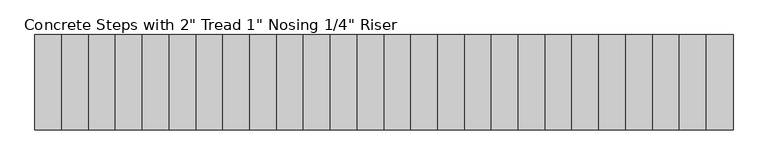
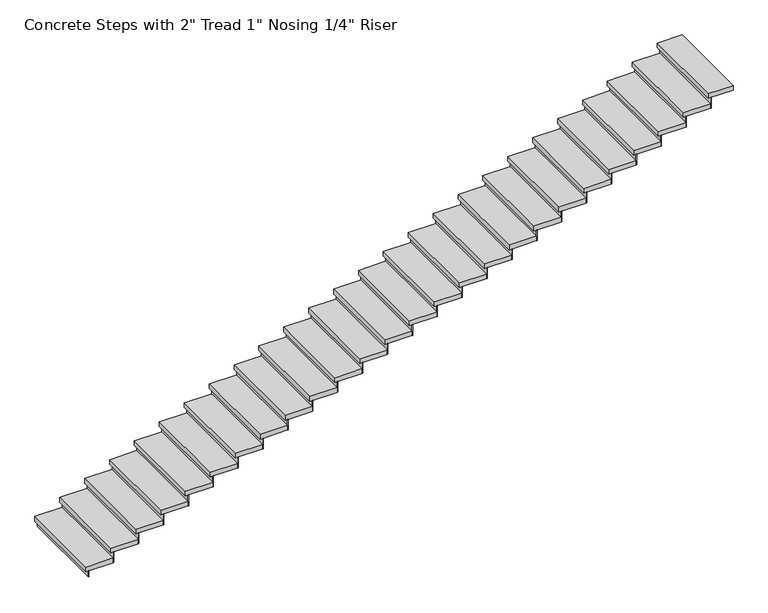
"""IFC4 building model written with IfcOpenShell, lengths in millimetres: stair flight geometry."""

from ifc_helpers import new_model, si_unit, frame, origin, origin_with_axes, place, context, project, spatial, polyline, outline, extrude, source, transform, mapped, element, save


def stair_flight_e29d72e6(model_context):
    return source(origin(), model_context, "Body", "SweptSolid", [
        extrude(outline(polyline([(-13769.987319, 12968.7406645), (-13776.337319, 12968.7406645), (-13776.337319, 13883.1406645), (-13769.987319, 13883.1406645), (-13769.987319, 12968.7406645)])), origin_with_axes(), (0.0, 0.0, 1.0), 66.4307692),
        extrude(outline(polyline([(-13518.527319, 13883.1406645), (-13518.527319, 12968.7406645), (-13801.737319, 12968.7406645), (-13801.737319, 13883.1406645), (-13518.527319, 13883.1406645)])), frame((0.0, 0.0, 66.4307692), z_axis=(0.0, 0.0, 1.0), x_axis=(1.0, 0.0, 0.0)), (0.0, 0.0, 1.0), 50.8),
        extrude(outline(polyline([(-13512.177319, 12968.7406645), (-13518.527319, 12968.7406645), (-13518.527319, 13883.1406645), (-13512.177319, 13883.1406645), (-13512.177319, 12968.7406645)])), frame((0.0, 0.0, 66.4307692), z_axis=(0.0, 0.0, 1.0), x_axis=(1.0, 0.0, 0.0)), (0.0, 0.0, 1.0), 117.2307692),
        extrude(outline(polyline([(-13260.717319, 13883.1406645), (-13260.717319, 12968.7406645), (-13543.927319, 12968.7406645), (-13543.927319, 13883.1406645), (-13260.717319, 13883.1406645)])), frame((0.0, 0.0, 183.6615385), z_axis=(0.0, 0.0, 1.0), x_axis=(1.0, 0.0, 0.0)), (0.0, 0.0, 1.0), 50.8),
        extrude(outline(polyline([(-13254.367319, 12968.7406645), (-13260.717319, 12968.7406645), (-13260.717319, 13883.1406645), (-13254.367319, 13883.1406645), (-13254.367319, 12968.7406645)])), frame((0.0, 0.0, 183.6615385), z_axis=(0.0, 0.0, 1.0), x_axis=(1.0, 0.0, 0.0)), (0.0, 0.0, 1.0), 117.2307692),
        extrude(outline(polyline([(-13002.907319, 13883.1406645), (-13002.907319, 12968.7406645), (-13286.117319, 12968.7406645), (-13286.117319, 13883.1406645), (-13002.907319, 13883.1406645)])), frame((0.0, 0.0, 300.8923077), z_axis=(0.0, 0.0, 1.0), x_axis=(1.0, 0.0, 0.0)), (0.0, 0.0, 1.0), 50.8),
        extrude(outline(polyline([(-12996.557319, 12968.7406645), (-13002.907319, 12968.7406645), (-13002.907319, 13883.1406645), (-12996.557319, 13883.1406645), (-12996.557319, 12968.7406645)])), frame((0.0, 0.0, 300.8923077), z_axis=(0.0, 0.0, 1.0), x_axis=(1.0, 0.0, 0.0)), (0.0, 0.0, 1.0), 117.2307692),
        extrude(outline(polyline([(-12745.097319, 13883.1406645), (-12745.097319, 12968.7406645), (-13028.307319, 12968.7406645), (-13028.307319, 13883.1406645), (-12745.097319, 13883.1406645)])), frame((0.0, 0.0, 418.1230769), z_axis=(0.0, 0.0, 1.0), x_axis=(1.0, 0.0, 0.0)), (0.0, 0.0, 1.0), 50.8),
        extrude(outline(polyline([(-12738.747319, 12968.7406645), (-12745.097319, 12968.7406645), (-12745.097319, 13883.1406645), (-12738.747319, 13883.1406645), (-12738.747319, 12968.7406645)])), frame((0.0, 0.0, 418.1230769), z_axis=(0.0, 0.0, 1.0), x_axis=(1.0, 0.0, 0.0)), (0.0, 0.0, 1.0), 117.2307692),
        extrude(outline(polyline([(-12487.287319, 13883.1406645), (-12487.287319, 12968.7406645), (-12770.497319, 12968.7406645), (-12770.497319, 13883.1406645), (-12487.287319, 13883.1406645)])), frame((0.0, 0.0, 535.3538462), z_axis=(0.0, 0.0, 1.0), x_axis=(1.0, 0.0, 0.0)), (0.0, 0.0, 1.0), 50.8),
        extrude(outline(polyline([(-12480.937319, 12968.7406645), (-12487.287319, 12968.7406645), (-12487.287319, 13883.1406645), (-12480.937319, 13883.1406645), (-12480.937319, 12968.7406645)])), frame((0.0, 0.0, 535.3538462), z_axis=(0.0, 0.0, 1.0), x_axis=(1.0, 0.0, 0.0)), (0.0, 0.0, 1.0), 117.2307692),
        extrude(outline(polyline([(-12229.477319, 13883.1406645), (-12229.477319, 12968.7406645), (-12512.687319, 12968.7406645), (-12512.687319, 13883.1406645), (-12229.477319, 13883.1406645)])), frame((0.0, 0.0, 652.5846154), z_axis=(0.0, 0.0, 1.0), x_axis=(1.0, 0.0, 0.0)), (0.0, 0.0, 1.0), 50.8),
        extrude(outline(polyline([(-12223.127319, 12968.7406645), (-12229.477319, 12968.7406645), (-12229.477319, 13883.1406645), (-12223.127319, 13883.1406645), (-12223.127319, 12968.7406645)])), frame((0.0, 0.0, 652.5846154), z_axis=(0.0, 0.0, 1.0), x_axis=(1.0, 0.0, 0.0)), (0.0, 0.0, 1.0), 117.2307692),
        extrude(outline(polyline([(-11971.667319, 13883.1406645), (-11971.667319, 12968.7406645), (-12254.877319, 12968.7406645), (-12254.877319, 13883.1406645), (-11971.667319, 13883.1406645)])), frame((0.0, 0.0, 769.8153846), z_axis=(0.0, 0.0, 1.0), x_axis=(1.0, 0.0, 0.0)), (0.0, 0.0, 1.0), 50.8),
        extrude(outline(polyline([(-11965.317319, 12968.7406645), (-11971.667319, 12968.7406645), (-11971.667319, 13883.1406645), (-11965.317319, 13883.1406645), (-11965.317319, 12968.7406645)])), frame((0.0, 0.0, 769.8153846), z_axis=(0.0, 0.0, 1.0), x_axis=(1.0, 0.0, 0.0)), (0.0, 0.0, 1.0), 117.2307692),
        extrude(outline(polyline([(-11713.857319, 13883.1406645), (-11713.857319, 12968.7406645), (-11997.067319, 12968.7406645), (-11997.067319, 13883.1406645), (-11713.857319, 13883.1406645)])), frame((0.0, 0.0, 887.0461538), z_axis=(0.0, 0.0, 1.0), x_axis=(1.0, 0.0, 0.0)), (0.0, 0.0, 1.0), 50.8),
        extrude(outline(polyline([(-11707.507319, 12968.7406645), (-11713.857319, 12968.7406645), (-11713.857319, 13883.1406645), (-11707.507319, 13883.1406645), (-11707.507319, 12968.7406645)])), frame((0.0, 0.0, 887.0461538), z_axis=(0.0, 0.0, 1.0), x_axis=(1.0, 0.0, 0.0)), (0.0, 0.0, 1.0), 117.2307692),
        extrude(outline(polyline([(-11456.047319, 13883.1406645), (-11456.047319, 12968.7406645), (-11739.257319, 12968.7406645), (-11739.257319, 13883.1406645), (-11456.047319, 13883.1406645)])), frame((0.0, 0.0, 1004.2769231), z_axis=(0.0, 0.0, 1.0), x_axis=(1.0, 0.0, 0.0)), (0.0, 0.0, 1.0), 50.8),
        extrude(outline(polyline([(-11449.697319, 12968.7406645), (-11456.047319, 12968.7406645), (-11456.047319, 13883.1406645), (-11449.697319, 13883.1406645), (-11449.697319, 12968.7406645)])), frame((0.0, 0.0, 1004.2769231), z_axis=(0.0, 0.0, 1.0), x_axis=(1.0, 0.0, 0.0)), (0.0, 0.0, 1.0), 117.2307692),
        extrude(outline(polyline([(-11198.237319, 13883.1406645), (-11198.237319, 12968.7406645), (-11481.447319, 12968.7406645), (-11481.447319, 13883.1406645), (-11198.237319, 13883.1406645)])), frame((0.0, 0.0, 1121.5076923), z_axis=(0.0, 0.0, 1.0), x_axis=(1.0, 0.0, 0.0)), (0.0, 0.0, 1.0), 50.8),
        extrude(outline(polyline([(-11191.887319, 12968.7406645), (-11198.237319, 12968.7406645), (-11198.237319, 13883.1406645), (-11191.887319, 13883.1406645), (-11191.887319, 12968.7406645)])), frame((0.0, 0.0, 1121.5076923), z_axis=(0.0, 0.0, 1.0), x_axis=(1.0, 0.0, 0.0)), (0.0, 0.0, 1.0), 117.2307692),
        extrude(outline(polyline([(-10940.427319, 13883.1406645), (-10940.427319, 12968.7406645), (-11223.637319, 12968.7406645), (-11223.637319, 13883.1406645), (-10940.427319, 13883.1406645)])), frame((0.0, 0.0, 1238.7384615), z_axis=(0.0, 0.0, 1.0), x_axis=(1.0, 0.0, 0.0)), (0.0, 0.0, 1.0), 50.8),
        extrude(outline(polyline([(-10934.077319, 12968.7406645), (-10940.427319, 12968.7406645), (-10940.427319, 13883.1406645), (-10934.077319, 13883.1406645), (-10934.077319, 12968.7406645)])), frame((0.0, 0.0, 1238.7384615), z_axis=(0.0, 0.0, 1.0), x_axis=(1.0, 0.0, 0.0)), (0.0, 0.0, 1.0), 117.2307692),
        extrude(outline(polyline([(-10682.617319, 13883.1406645), (-10682.617319, 12968.7406645), (-10965.827319, 12968.7406645), (-10965.827319, 13883.1406645), (-10682.617319, 13883.1406645)])), frame((0.0, 0.0, 1355.9692308), z_axis=(0.0, 0.0, 1.0), x_axis=(1.0, 0.0, 0.0)), (0.0, 0.0, 1.0), 50.8),
        extrude(outline(polyline([(-10676.267319, 12968.7406645), (-10682.617319, 12968.7406645), (-10682.617319, 13883.1406645), (-10676.267319, 13883.1406645), (-10676.267319, 12968.7406645)])), frame((0.0, 0.0, 1355.9692308), z_axis=(0.0, 0.0, 1.0), x_axis=(1.0, 0.0, 0.0)), (0.0, 0.0, 1.0), 117.2307692),
        extrude(outline(polyline([(-10424.807319, 13883.1406645), (-10424.807319, 12968.7406645), (-10708.017319, 12968.7406645), (-10708.017319, 13883.1406645), (-10424.807319, 13883.1406645)])), frame((0.0, 0.0, 1473.2), z_axis=(0.0, 0.0, 1.0), x_axis=(1.0, 0.0, 0.0)), (0.0, 0.0, 1.0), 50.8),
        extrude(outline(polyline([(-10418.457319, 12968.7406645), (-10424.807319, 12968.7406645), (-10424.807319, 13883.1406645), (-10418.457319, 13883.1406645), (-10418.457319, 12968.7406645)])), frame((0.0, 0.0, 1473.2), z_axis=(0.0, 0.0, 1.0), x_axis=(1.0, 0.0, 0.0)), (0.0, 0.0, 1.0), 117.2307692),
        extrude(outline(polyline([(-10166.997319, 13883.1406645), (-10166.997319, 12968.7406645), (-10450.207319, 12968.7406645), (-10450.207319, 13883.1406645), (-10166.997319, 13883.1406645)])), frame((0.0, 0.0, 1590.4307692), z_axis=(0.0, 0.0, 1.0), x_axis=(1.0, 0.0, 0.0)), (0.0, 0.0, 1.0), 50.8),
        extrude(outline(polyline([(-10160.647319, 12968.7406645), (-10166.997319, 12968.7406645), (-10166.997319, 13883.1406645), (-10160.647319, 13883.1406645), (-10160.647319, 12968.7406645)])), frame((0.0, 0.0, 1590.4307692), z_axis=(0.0, 0.0, 1.0), x_axis=(1.0, 0.0, 0.0)), (0.0, 0.0, 1.0), 117.2307692),
        extrude(outline(polyline([(-9909.187319, 13883.1406645), (-9909.187319, 12968.7406645), (-10192.397319, 12968.7406645), (-10192.397319, 13883.1406645), (-9909.187319, 13883.1406645)])), frame((0.0, 0.0, 1707.6615385), z_axis=(0.0, 0.0, 1.0), x_axis=(1.0, 0.0, 0.0)), (0.0, 0.0, 1.0), 50.8),
        extrude(outline(polyline([(-9902.837319, 12968.7406645), (-9909.187319, 12968.7406645), (-9909.187319, 13883.1406645), (-9902.837319, 13883.1406645), (-9902.837319, 12968.7406645)])), frame((0.0, 0.0, 1707.6615385), z_axis=(0.0, 0.0, 1.0), x_axis=(1.0, 0.0, 0.0)), (0.0, 0.0, 1.0), 117.2307692),
        extrude(outline(polyline([(-9651.377319, 13883.1406645), (-9651.377319, 12968.7406645), (-9934.587319, 12968.7406645), (-9934.587319, 13883.1406645), (-9651.377319, 13883.1406645)])), frame((0.0, 0.0, 1824.8923077), z_axis=(0.0, 0.0, 1.0), x_axis=(1.0, 0.0, 0.0)), (0.0, 0.0, 1.0), 50.8),
        extrude(outline(polyline([(-9645.027319, 12968.7406645), (-9651.377319, 12968.7406645), (-9651.377319, 13883.1406645), (-9645.027319, 13883.1406645), (-9645.027319, 12968.7406645)])), frame((0.0, 0.0, 1824.8923077), z_axis=(0.0, 0.0, 1.0), x_axis=(1.0, 0.0, 0.0)), (0.0, 0.0, 1.0), 117.2307692),
        extrude(outline(polyline([(-9393.567319, 13883.1406645), (-9393.567319, 12968.7406645), (-9676.777319, 12968.7406645), (-9676.777319, 13883.1406645), (-9393.567319, 13883.1406645)])), frame((0.0, 0.0, 1942.1230769), z_axis=(0.0, 0.0, 1.0), x_axis=(1.0, 0.0, 0.0)), (0.0, 0.0, 1.0), 50.8),
        extrude(outline(polyline([(-9387.217319, 12968.7406645), (-9393.567319, 12968.7406645), (-9393.567319, 13883.1406645), (-9387.217319, 13883.1406645), (-9387.217319, 12968.7406645)])), frame((0.0, 0.0, 1942.1230769), z_axis=(0.0, 0.0, 1.0), x_axis=(1.0, 0.0, 0.0)), (0.0, 0.0, 1.0), 117.2307692),
        extrude(outline(polyline([(-9135.757319, 13883.1406645), (-9135.757319, 12968.7406645), (-9418.967319, 12968.7406645), (-9418.967319, 13883.1406645), (-9135.757319, 13883.1406645)])), frame((0.0, 0.0, 2059.3538462), z_axis=(0.0, 0.0, 1.0), x_axis=(1.0, 0.0, 0.0)), (0.0, 0.0, 1.0), 50.8),
        extrude(outline(polyline([(-9129.407319, 12968.7406645), (-9135.757319, 12968.7406645), (-9135.757319, 13883.1406645), (-9129.407319, 13883.1406645), (-9129.407319, 12968.7406645)])), frame((0.0, 0.0, 2059.3538462), z_axis=(0.0, 0.0, 1.0), x_axis=(1.0, 0.0, 0.0)), (0.0, 0.0, 1.0), 117.2307692),
        extrude(outline(polyline([(-8877.947319, 13883.1406645), (-8877.947319, 12968.7406645), (-9161.157319, 12968.7406645), (-9161.157319, 13883.1406645), (-8877.947319, 13883.1406645)])), frame((0.0, 0.0, 2176.5846154), z_axis=(0.0, 0.0, 1.0), x_axis=(1.0, 0.0, 0.0)), (0.0, 0.0, 1.0), 50.8),
        extrude(outline(polyline([(-8871.597319, 12968.7406645), (-8877.947319, 12968.7406645), (-8877.947319, 13883.1406645), (-8871.597319, 13883.1406645), (-8871.597319, 12968.7406645)])), frame((0.0, 0.0, 2176.5846154), z_axis=(0.0, 0.0, 1.0), x_axis=(1.0, 0.0, 0.0)), (0.0, 0.0, 1.0), 117.2307692),
        extrude(outline(polyline([(-8620.137319, 13883.1406645), (-8620.137319, 12968.7406645), (-8903.347319, 12968.7406645), (-8903.347319, 13883.1406645), (-8620.137319, 13883.1406645)])), frame((0.0, 0.0, 2293.8153846), z_axis=(0.0, 0.0, 1.0), x_axis=(1.0, 0.0, 0.0)), (0.0, 0.0, 1.0), 50.8),
        extrude(outline(polyline([(-8613.787319, 12968.7406645), (-8620.137319, 12968.7406645), (-8620.137319, 13883.1406645), (-8613.787319, 13883.1406645), (-8613.787319, 12968.7406645)])), frame((0.0, 0.0, 2293.8153846), z_axis=(0.0, 0.0, 1.0), x_axis=(1.0, 0.0, 0.0)), (0.0, 0.0, 1.0), 117.2307692),
        extrude(outline(polyline([(-8362.327319, 13883.1406645), (-8362.327319, 12968.7406645), (-8645.537319, 12968.7406645), (-8645.537319, 13883.1406645), (-8362.327319, 13883.1406645)])), frame((0.0, 0.0, 2411.0461538), z_axis=(0.0, 0.0, 1.0), x_axis=(1.0, 0.0, 0.0)), (0.0, 0.0, 1.0), 50.8),
        extrude(outline(polyline([(-8355.977319, 12968.7406645), (-8362.327319, 12968.7406645), (-8362.327319, 13883.1406645), (-8355.977319, 13883.1406645), (-8355.977319, 12968.7406645)])), frame((0.0, 0.0, 2411.0461538), z_axis=(0.0, 0.0, 1.0), x_axis=(1.0, 0.0, 0.0)), (0.0, 0.0, 1.0), 117.2307692),
        extrude(outline(polyline([(-8104.517319, 13883.1406645), (-8104.517319, 12968.7406645), (-8387.727319, 12968.7406645), (-8387.727319, 13883.1406645), (-8104.517319, 13883.1406645)])), frame((0.0, 0.0, 2528.2769231), z_axis=(0.0, 0.0, 1.0), x_axis=(1.0, 0.0, 0.0)), (0.0, 0.0, 1.0), 50.8),
        extrude(outline(polyline([(-8098.167319, 12968.7406645), (-8104.517319, 12968.7406645), (-8104.517319, 13883.1406645), (-8098.167319, 13883.1406645), (-8098.167319, 12968.7406645)])), frame((0.0, 0.0, 2528.2769231), z_axis=(0.0, 0.0, 1.0), x_axis=(1.0, 0.0, 0.0)), (0.0, 0.0, 1.0), 117.2307692),
        extrude(outline(polyline([(-7846.707319, 13883.1406645), (-7846.707319, 12968.7406645), (-8129.917319, 12968.7406645), (-8129.917319, 13883.1406645), (-7846.707319, 13883.1406645)])), frame((0.0, 0.0, 2645.5076923), z_axis=(0.0, 0.0, 1.0), x_axis=(1.0, 0.0, 0.0)), (0.0, 0.0, 1.0), 50.8),
        extrude(outline(polyline([(-7840.357319, 12968.7406645), (-7846.707319, 12968.7406645), (-7846.707319, 13883.1406645), (-7840.357319, 13883.1406645), (-7840.357319, 12968.7406645)])), frame((0.0, 0.0, 2645.5076923), z_axis=(0.0, 0.0, 1.0), x_axis=(1.0, 0.0, 0.0)), (0.0, 0.0, 1.0), 117.2307692),
        extrude(outline(polyline([(-7588.897319, 13883.1406645), (-7588.897319, 12968.7406645), (-7872.107319, 12968.7406645), (-7872.107319, 13883.1406645), (-7588.897319, 13883.1406645)])), frame((0.0, 0.0, 2762.7384615), z_axis=(0.0, 0.0, 1.0), x_axis=(1.0, 0.0, 0.0)), (0.0, 0.0, 1.0), 50.8),
        extrude(outline(polyline([(-7582.547319, 12968.7406645), (-7588.897319, 12968.7406645), (-7588.897319, 13883.1406645), (-7582.547319, 13883.1406645), (-7582.547319, 12968.7406645)])), frame((0.0, 0.0, 2762.7384615), z_axis=(0.0, 0.0, 1.0), x_axis=(1.0, 0.0, 0.0)), (0.0, 0.0, 1.0), 117.2307692),
        extrude(outline(polyline([(-7331.087319, 13883.1406645), (-7331.087319, 12968.7406645), (-7614.297319, 12968.7406645), (-7614.297319, 13883.1406645), (-7331.087319, 13883.1406645)])), frame((0.0, 0.0, 2879.9692308), z_axis=(0.0, 0.0, 1.0), x_axis=(1.0, 0.0, 0.0)), (0.0, 0.0, 1.0), 50.8),
        extrude(outline(polyline([(-7324.737319, 12968.7406645), (-7331.087319, 12968.7406645), (-7331.087319, 13883.1406645), (-7324.737319, 13883.1406645), (-7324.737319, 12968.7406645)])), frame((0.0, 0.0, 2879.9692308), z_axis=(0.0, 0.0, 1.0), x_axis=(1.0, 0.0, 0.0)), (0.0, 0.0, 1.0), 117.2307692),
        extrude(outline(polyline([(-7098.677319, 13883.1406645), (-7098.677319, 12968.7406645), (-7356.487319, 12968.7406645), (-7356.487319, 13883.1406645), (-7098.677319, 13883.1406645)])), frame((0.0, 0.0, 2997.2), z_axis=(0.0, 0.0, 1.0), x_axis=(1.0, 0.0, 0.0)), (0.0, 0.0, 1.0), 50.8),
    ])


if __name__ == "__main__":
    model = new_model("IFC4")
    model_context = context("Model", 3, world=origin())
    ifc_project = project(units=[si_unit("LENGTHUNIT", "METRE", prefix="MILLI")], contexts=[model_context])
    site = spatial("IfcSite", under=ifc_project)
    building = spatial("IfcBuilding", under=site)
    placement = place(None, origin())
    stair_flight_shape = stair_flight_e29d72e6(model_context)
    element("IfcStairFlight", 1, ObjectType="Concrete Steps with 2\" Tread 1\" Nosing 1/4\" Riser", at=placement, inside=building, context=model_context, shape_type="MappedRepresentation", body=[
        mapped(stair_flight_shape, transform((0.0, 0.0, 0.0), x_axis=(1.0, 0.0, 0.0), y_axis=(0.0, 1.0, 0.0), z_axis=(0.0, 0.0, 1.0))),
    ])
    save(model, "model.ifc")
